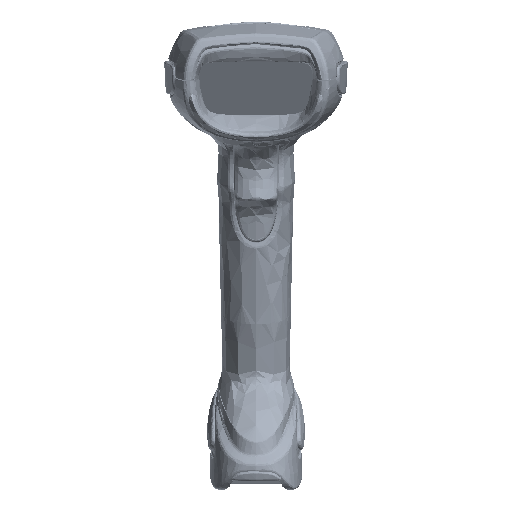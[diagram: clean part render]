
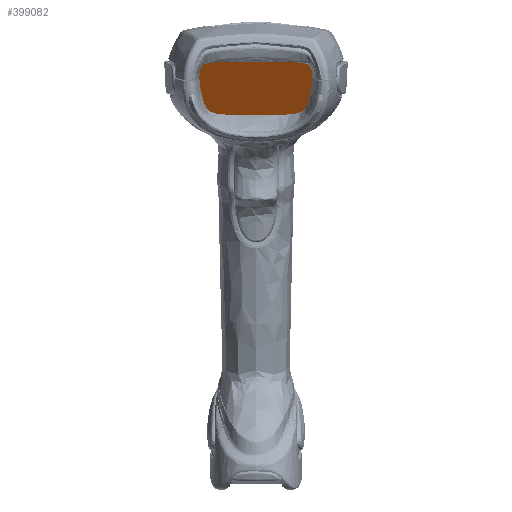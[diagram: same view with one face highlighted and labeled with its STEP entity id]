
A CAD part, top view. The second image highlights one B-rep face of the part: STEP entity #399082.
In plain terms, the highlighted planar face has unit normal (0, -0.575, 0.818).
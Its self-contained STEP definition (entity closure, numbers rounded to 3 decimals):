
#398776=DIRECTION('',(-1.,0.,0.));
#398777=VECTOR('',#398776,35.);
#398778=CARTESIAN_POINT('',(17.5,9.723,
63.596));
#398779=LINE('',#398778,#398777);
#398788=DIRECTION('',(0.,0.818,0.575));
#398789=VECTOR('',#398788,17.5);
#398790=CARTESIAN_POINT('',(23.,-9.101,50.38));
#398791=LINE('',#398790,#398789);
#398800=DIRECTION('',(1.,0.,0.));
#398801=VECTOR('',#398800,35.);
#398802=CARTESIAN_POINT('',(-17.5,-13.602,
47.22));
#398803=LINE('',#398802,#398801);
#398812=DIRECTION('',(0.,-0.818,-0.575));
#398813=VECTOR('',#398812,17.5);
#398814=CARTESIAN_POINT('',(-23.,5.222,60.436));
#398815=LINE('',#398814,#398813);
#398816=CARTESIAN_POINT('',(-17.5,5.222,60.436));
#398817=DIRECTION('',(0.,0.575,-0.818));
#398818=DIRECTION('',(-1.,0.,0.));
#398819=AXIS2_PLACEMENT_3D('',#398816,#398817,#398818);
#398821=CARTESIAN_POINT('',(17.5,5.222,60.436));
#398822=DIRECTION('',(0.,0.575,-0.818));
#398823=DIRECTION('',(0.,0.818,0.575));
#398824=AXIS2_PLACEMENT_3D('',#398821,#398822,#398823);
#398826=CARTESIAN_POINT('',(17.5,-9.101,50.38));
#398827=DIRECTION('',(0.,0.575,-0.818));
#398828=DIRECTION('',(1.,0.,0.));
#398829=AXIS2_PLACEMENT_3D('',#398826,#398827,#398828);
#398831=CARTESIAN_POINT('',(-17.5,-9.101,50.38));
#398832=DIRECTION('',(0.,0.575,-0.818));
#398833=DIRECTION('',(0.,-0.818,
-0.575));
#398834=AXIS2_PLACEMENT_3D('',#398831,#398832,#398833);
#398852=CARTESIAN_POINT('',(-17.5,9.723,
63.596));
#398853=VERTEX_POINT('',#398852);
#398854=CARTESIAN_POINT('',(-23.,5.222,60.436));
#398855=VERTEX_POINT('',#398854);
#398856=CARTESIAN_POINT('',(17.5,9.723,
63.596));
#398857=VERTEX_POINT('',#398856);
#398858=CARTESIAN_POINT('',(23.,5.222,60.436));
#398859=VERTEX_POINT('',#398858);
#398860=CARTESIAN_POINT('',(23.,-9.101,50.38));
#398861=VERTEX_POINT('',#398860);
#398862=CARTESIAN_POINT('',(17.5,-13.602,
47.22));
#398863=VERTEX_POINT('',#398862);
#398864=CARTESIAN_POINT('',(-17.5,-13.602,
47.22));
#398865=VERTEX_POINT('',#398864);
#398866=CARTESIAN_POINT('',(-23.,-9.101,50.38));
#398867=VERTEX_POINT('',#398866);
#399067=CARTESIAN_POINT('',(0.,-26.697,38.026));
#399068=DIRECTION('',(0.,0.575,-0.818));
#399069=DIRECTION('',(1.,0.,0.));
#399070=AXIS2_PLACEMENT_3D('',#399067,#399068,#399069);
#399071=PLANE('',#399070);
#399072=ORIENTED_EDGE('',*,*,#398907,.T.);
#399073=ORIENTED_EDGE('',*,*,#398929,.F.);
#399074=ORIENTED_EDGE('',*,*,#398950,.T.);
#399075=ORIENTED_EDGE('',*,*,#398971,.F.);
#399076=ORIENTED_EDGE('',*,*,#398992,.T.);
#399077=ORIENTED_EDGE('',*,*,#399013,.F.);
#399078=ORIENTED_EDGE('',*,*,#399034,.T.);
#399079=ORIENTED_EDGE('',*,*,#399054,.F.);
#399080=EDGE_LOOP('',(#399072,#399073,#399074,#399075,#399076,#399077,#399078,
#399079));
#399081=FACE_OUTER_BOUND('',#399080,.F.);
#398820=CIRCLE('',#398819,5.5);
#398825=CIRCLE('',#398824,5.5);
#398830=CIRCLE('',#398829,5.5);
#398835=CIRCLE('',#398834,5.5);
#398907=EDGE_CURVE('',#398855,#398853,#398820,.T.);
#398929=EDGE_CURVE('',#398857,#398853,#398779,.T.);
#398950=EDGE_CURVE('',#398857,#398859,#398825,.T.);
#398971=EDGE_CURVE('',#398861,#398859,#398791,.T.);
#398992=EDGE_CURVE('',#398861,#398863,#398830,.T.);
#399013=EDGE_CURVE('',#398865,#398863,#398803,.T.);
#399034=EDGE_CURVE('',#398865,#398867,#398835,.T.);
#399054=EDGE_CURVE('',#398855,#398867,#398815,.T.);
#399082=ADVANCED_FACE('',(#399081),#399071,.F.);
